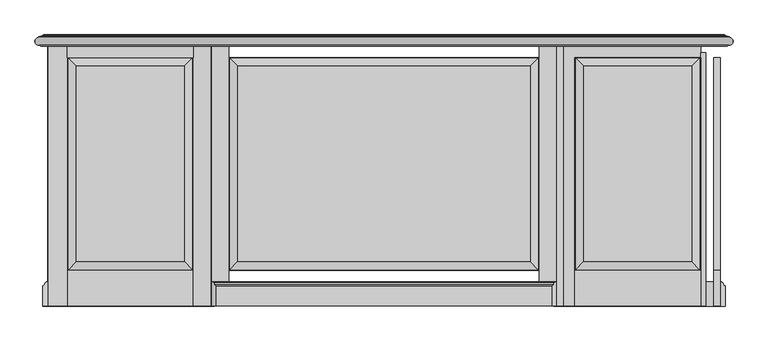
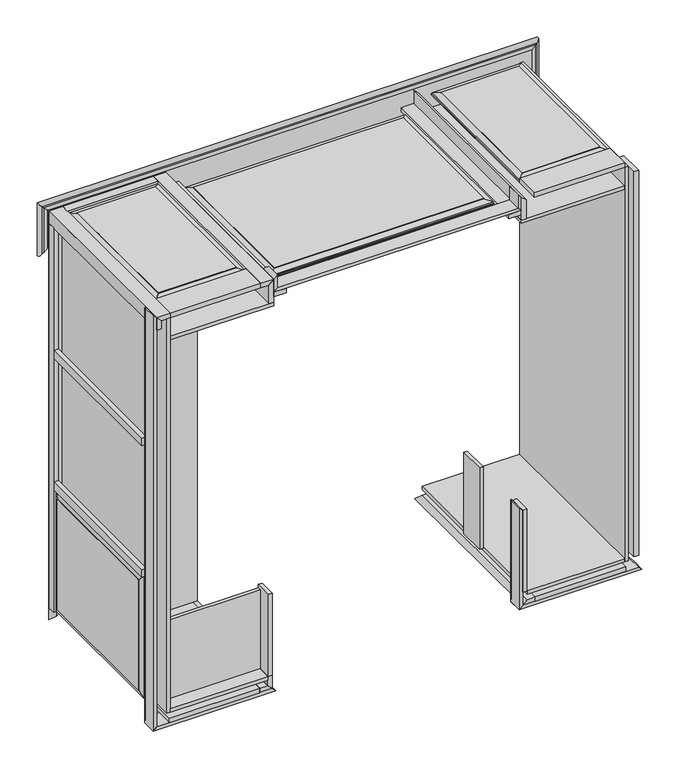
"""IFC4 building model written with IfcOpenShell, lengths in millimetres: proxy geometry, CAMBRIDGE^ADMIN 1_U-SHAPE-PARTS SOLID."""

from ifc_helpers import new_model, si_unit, frame, origin, origin_with_axes, place, context, project, spatial, polyline, ellipse_curve, outline, extrude, faceted_brep, source, transform, mapped, element, save
from ifc_brep_helpers import plane_surface, cylinder_surface, revolved_surface, advanced_brep


def generic_models_92315624(model_context):
    return source(origin(), model_context, "Body", "SolidModel", [
        extrude(outline(polyline([(-2006.6, -19.05), (-2006.6, 25.4), (-1981.2, 0.0), (-1981.2, -19.05), (-2006.6, -19.05)])), frame((0.0, 0.0, -6.35), z_axis=(0.0, 0.0, 1.0), x_axis=(1.0, 0.0, 0.0)), (0.0, 0.0, 1.0), 2228.85),
        extrude(outline(polyline([(19.05, -439.340625), (19.05, -588.16875), (0.0, -588.16875), (0.0, -439.340625), (19.05, -439.340625)])), frame((0.0, 0.0, 2.38125), z_axis=(0.0, 0.0, 1.0), x_axis=(1.0, 0.0, 0.0)), (0.0, 0.0, 1.0), 471.4875),
        faceted_brep([(-1930.4, 0.0, 2266.95), (-1930.4, 25.4, 2292.35), (-2006.6, 25.4, 2292.35), (-1981.2, 0.0, 2266.95), (-2006.6, 25.4, -76.2), (-1981.2, 0.0, -50.8), (-1930.4, 0.0, 0.0), (-1930.4, 25.4, 0.0)], [[[0, 1, 2, 3]], [[3, 2, 4, 5]], [[0, 3, 5, 6]], [[1, 0, 6, 7]], [[5, 4, 7, 6]], [[7, 4, 2, 1]]]),
        extrude(outline(polyline([(558.8, -857.25), (558.8, -996.95), (63.5, -996.95), (63.5, -857.25), (558.8, -857.25)])), frame((0.0, 0.0, 2266.95), z_axis=(0.0, 0.0, 1.0), x_axis=(1.0, 0.0, 0.0)), (0.0, 0.0, 1.0), 25.4),
        extrude(outline(polyline([(-1397.0, -996.95), (-1930.4, -996.95), (-1930.4, 0.0), (-1397.0, 0.0), (-1397.0, -996.95)])), frame((0.0, 0.0, -19.05), z_axis=(0.0, 0.0, 1.0), x_axis=(1.0, 0.0, 0.0)), (0.0, 0.0, 1.0), 19.05),
        faceted_brep([(-1397.0, 0.0, -50.8), (-1371.6, 25.4, -76.2), (-1371.6, -996.95, -76.2), (-1397.0, -996.95, -50.8), (-1371.6, -996.95, 0.0), (-1397.0, -996.95, 0.0), (-1397.0, 0.0, 0.0), (-1371.6, 25.4, 0.0)], [[[0, 1, 2, 3]], [[3, 2, 4, 5]], [[0, 3, 5, 6]], [[1, 0, 6, 7]], [[2, 1, 7, 4]], [[7, 6, 5, 4]]]),
        extrude(outline(polyline([(2159.0, -1390.65), (2159.0, -1365.25), (2292.35, -1365.25), (2266.95, -1390.65), (2159.0, -1390.65)])), frame((0.0, -996.95, 0.0), z_axis=(0.0, 1.0, 0.0), x_axis=(0.0, 0.0, 1.0)), (0.0, 0.0, 1.0), 1022.35),
        extrude(outline(polyline([(-1365.25, -996.95), (-1365.25, 25.4), (-1295.4, 25.4), (-1295.4, -996.95), (-1365.25, -996.95)])), frame((0.0, 0.0, 2190.75), z_axis=(0.0, 0.0, 1.0), x_axis=(1.0, 0.0, 0.0)), (0.0, 0.0, 1.0), 25.4),
        extrude(outline(polyline([(-1441.45, -857.25), (-1441.45, -996.95), (-1936.75, -996.95), (-1936.75, -857.25), (-1441.45, -857.25)])), frame((0.0, 0.0, -76.2), z_axis=(0.0, 0.0, 1.0), x_axis=(1.0, 0.0, 0.0)), (0.0, 0.0, 1.0), 25.4),
        extrude(outline(polyline([(-1930.4, -19.05), (-1930.4, 25.4), (-1435.1, 25.4), (-1435.1, -19.05), (-1930.4, -19.05)])), frame((0.0, 0.0, 2266.95), z_axis=(0.0, 0.0, 1.0), x_axis=(1.0, 0.0, 0.0)), (0.0, 0.0, 1.0), 25.4),
        extrude(outline(polyline([(558.8, -996.95), (25.4, -996.95), (25.4, 0.0), (558.8, 0.0), (558.8, -996.95)])), frame((0.0, 0.0, -19.05), z_axis=(0.0, 0.0, 1.0), x_axis=(1.0, 0.0, 0.0)), (0.0, 0.0, 1.0), 19.05),
        extrude(outline(polyline([(2159.0, -6.35), (2159.0, 19.05), (2266.95, 19.05), (2292.35, -6.35), (2159.0, -6.35)])), frame((0.0, -996.95, 0.0), z_axis=(0.0, 1.0, 0.0), x_axis=(0.0, 0.0, 1.0)), (0.0, 0.0, 1.0), 1022.35),
        extrude(outline(polyline([(-1930.4, 0.0), (-1930.4, -996.95), (-1949.45, -996.95), (-1949.45, 0.0), (-1930.4, 0.0)])), frame((0.0, 0.0, -19.05), z_axis=(0.0, 0.0, 1.0), x_axis=(1.0, 0.0, 0.0)), (0.0, 0.0, 1.0), 2286.0),
        extrude(outline(polyline([(2266.95, -1390.65), (2292.35, -1365.25), (2292.35, -1435.1), (2266.95, -1435.1), (2266.95, -1390.65)])), frame((0.0, -996.95, 0.0), z_axis=(0.0, 1.0, 0.0), x_axis=(0.0, 0.0, 1.0)), (0.0, 0.0, 1.0), 1022.35),
        extrude(outline(polyline([(-2006.6, -19.05), (-1981.2, -19.05), (-1981.2, -857.25), (-2006.6, -857.25), (-2006.6, -19.05)])), frame((0.0, 0.0, 1466.85), z_axis=(0.0, 0.0, 1.0), x_axis=(1.0, 0.0, 0.0)), (0.0, 0.0, 1.0), 44.45),
        extrude(outline(polyline([(-6.35, 25.4), (-6.35, -996.95), (-76.2, -996.95), (-76.2, 25.4), (-6.35, 25.4)])), frame((0.0, 0.0, 2190.75), z_axis=(0.0, 0.0, 1.0), x_axis=(1.0, 0.0, 0.0)), (0.0, 0.0, 1.0), 25.4),
        faceted_brep([(-111.125, -822.325, 2216.15), (-111.125, -822.325, 2212.975), (-111.125, -53.975, 2212.975), (-111.125, -53.975, 2216.15), (-79.375, -854.075, 2204.4676131), (-79.375, -22.225, 2204.4676131), (-79.375, -854.075, 2197.1), (-79.375, -22.225, 2197.1), (-1260.475, -822.325, 2216.15), (-1260.475, -822.325, 2212.975), (-1292.225, -854.075, 2204.4676131), (-1292.225, -854.075, 2197.1), (-76.2, -19.05, 2197.1), (-1295.4, -19.05, 2197.1), (-1295.4, -857.25, 2197.1), (-76.2, -857.25, 2197.1), (-1292.225, -22.225, 2197.1), (-1260.475, -53.975, 2216.15), (-1260.475, -53.975, 2212.975), (-1292.225, -22.225, 2204.4676131), (-76.2, -857.25, 2190.75), (-76.2, -19.05, 2190.75), (-1295.4, -857.25, 2190.75), (-1295.4, -19.05, 2190.75)], [[[0, 1, 2, 3]], [[1, 4, 5, 2]], [[4, 6, 7, 5]], [[8, 9, 1, 0]], [[9, 10, 4, 1]], [[10, 11, 6, 4]], [[12, 13, 14, 15], [11, 16, 7, 6]], [[17, 18, 9, 8]], [[18, 19, 10, 9]], [[19, 16, 11, 10]], [[3, 2, 18, 17]], [[2, 5, 19, 18]], [[5, 7, 16, 19]], [[12, 15, 20, 21]], [[15, 14, 22, 20]], [[14, 13, 23, 22]], [[13, 12, 21, 23]], [[0, 3, 17, 8]], [[20, 22, 23, 21]]]),
        advanced_brep(
        [(662.8382387, 25.4, 2320.1882387), (668.7910714, 28.5587803, 2326.1410714), (-2040.3910714, 28.5587803, 2326.1410714), (-2034.4382387, 25.4, 2320.1882387), (669.925, 60.2682311, 2327.275), (-2041.525, 60.2682311, 2327.275), (669.925, 61.8557311, 2327.275), (-2041.525, 61.8557311, 2327.275), (655.0531721, 67.2686338, 2312.4031721), (-2026.6531721, 67.2686338, 2312.4031721), (651.8528814, 69.85, 2309.2028814), (-2023.4528814, 69.85, 2309.2028814), (641.35, 69.85, 2298.7), (-2012.95, 69.85, 2298.7), (641.35, 25.4, 2298.7), (-2012.95, 25.4, 2298.7)],
        [
            (0, 1, ellipse_curve(frame((668.3375, 22.225, 2325.6875), z_axis=(0.7071067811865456, 0.0, -0.7071067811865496), x_axis=(-0.7071067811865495, 0.0, -0.7071067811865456)), 8.9802561, 6.35)),
            (1, 2),
            (2, 3, ellipse_curve(frame((-2039.9375, 22.225, 2325.6875), z_axis=(-0.7071067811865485, 0.0, -0.7071067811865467), x_axis=(-0.7071067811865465, 0.0, 0.7071067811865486)), 8.9802561, 6.35)),
            (3, 0),
            (1, 4, ellipse_curve(frame((669.925, 44.3932311, 2327.275), z_axis=(-0.7071067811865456, 0.0, 0.7071067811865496), x_axis=(-0.7071067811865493, 0.0, -0.7071067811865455)), 22.4506403, 15.875)),
            (4, 5),
            (5, 2, ellipse_curve(frame((-2041.525, 44.3932311, 2327.275), z_axis=(0.7071067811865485, 0.0, 0.7071067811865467), x_axis=(-0.7071067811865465, 0.0, 0.7071067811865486)), 22.4506403, 15.875)),
            (4, 6),
            (6, 7),
            (7, 5),
            (6, 8),
            (8, 9),
            (9, 7),
            (8, 10, ellipse_curve(frame((657.225, 73.2356819, 2314.575), z_axis=(0.7071067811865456, 0.0, -0.7071067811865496), x_axis=(-0.7071067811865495, 0.0, -0.7071067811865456)), 8.9802561, 6.35)),
            (10, 11),
            (11, 9, ellipse_curve(frame((-2028.825, 73.2356819, 2314.575), z_axis=(-0.7071067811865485, 0.0, -0.7071067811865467), x_axis=(-0.7071067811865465, 0.0, 0.7071067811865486)), 8.9802561, 6.35)),
            (10, 12),
            (12, 13),
            (13, 11),
            (0, 14),
            (14, 12),
            (13, 15),
            (15, 3),
            (14, 15),
        ],
        [
            revolved_surface(polyline([(-2046.287499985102, 22.225, 2319.3375), (674.6874999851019, 22.225, 2319.3375)]), (668.3375, 22.225, 2325.6875), (-1.0, 0.0, 0.0)),
            cylinder_surface(frame((669.925, 44.3932311, 2327.275), z_axis=(-1.0, 0.0, 0.0), x_axis=(0.0, 0.0, 1.0)), 15.875),
            plane_surface(frame((669.925, 61.8557311, 2327.275), z_axis=(0.0, 0.0, 1.0), x_axis=(0.0, -1.0, 0.0))),
            plane_surface(frame((655.0531721, 67.2686338, 2312.4031721), z_axis=(0.0, 0.9396926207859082, 0.34202014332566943), x_axis=(0.6847910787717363, -0.24924356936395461, 0.6847910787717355))),
            revolved_surface(polyline([(-2035.1749999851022, 73.2356819, 2308.225), (663.574999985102, 73.2356819, 2308.225)]), (657.225, 73.2356819, 2314.575), (-1.0, 0.0, 0.0)),
            plane_surface(frame((-685.8, 69.85, 2320.925), z_axis=(0.0, 1.0, 0.0), x_axis=(0.0, 0.0, 1.0))),
            plane_surface(frame((685.8, 25.4, 2343.15), z_axis=(0.7071067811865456, 0.0, -0.7071067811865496), x_axis=(-0.7071067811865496, 0.0, -0.7071067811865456))),
            plane_surface(frame((-2012.95, 25.4, 2298.7), z_axis=(-0.7071067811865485, 0.0, -0.7071067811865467), x_axis=(-0.7071067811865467, 0.0, 0.7071067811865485))),
            plane_surface(frame((641.35, 25.4, 2298.7), z_axis=(0.0, 0.0, -1.0), x_axis=(-1.0, 0.0, 0.0))),
            plane_surface(frame((-685.8, 25.4, 2320.925), z_axis=(0.0, -1.0, 0.0), x_axis=(0.0, 0.0, 1.0))),
        ],
        [
            (0, [[1, 2, 3, 4]]),
            (1, [[5, 6, 7, -2]]),
            (2, [[8, 9, 10, -6]]),
            (3, [[11, 12, 13, -9]]),
            (4, [[14, 15, 16, -12]]),
            (5, [[-15, 17, 18, 19]]),
            (6, [[-14, -11, -8, -5, -1, 20, 21, -17]]),
            (7, [[-16, -19, 22, 23, -3, -7, -10, -13]]),
            (8, [[24, -22, -18, -21]]),
            (9, [[-4, -23, -24, -20]]),
        ],
    ),
        extrude(outline(polyline([(-19.05, -50.8), (0.0, -50.8), (25.4, -76.2), (-19.05, -76.2), (-19.05, -50.8)])), frame((-1936.75, 0.0, 0.0), z_axis=(1.0, 0.0, 0.0), x_axis=(0.0, 1.0, 0.0)), (0.0, 0.0, 1.0), 495.3),
        advanced_brep(
        [(-6.35, -901.7, -82.55), (-6.35, -904.875, -82.55), (-6.35, -904.875, 482.6), (-6.35, -901.7, 482.6), (-12.7, -911.225, -88.9), (-12.7, -911.225, 488.95), (-19.05, -917.575, -95.25), (-19.05, -917.575, 495.3), (-19.05, -996.95, -95.25), (-19.05, -996.95, 495.3), (0.0, -901.7, -76.2), (0.0, -996.95, -76.2), (0.0, -996.95, 476.25), (0.0, -901.7, 476.25)],
        [
            (0, 1),
            (1, 2),
            (2, 3),
            (3, 0),
            (1, 4, ellipse_curve(frame((-6.35, -911.225, -82.55), z_axis=(-0.7071067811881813, 0.0, 0.7071067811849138), x_axis=(0.7071067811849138, 0.0, 0.7071067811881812)), 8.9802561, 6.35)),
            (4, 5),
            (5, 2, ellipse_curve(frame((-6.35, -911.225, 482.6), z_axis=(-0.7071067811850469, 0.0, -0.7071067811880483), x_axis=(-0.7071067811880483, 0.0, 0.7071067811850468)), 8.9802561, 6.35)),
            (4, 6, ellipse_curve(frame((-19.05, -911.225, -95.25), z_axis=(0.7071067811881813, 0.0, -0.7071067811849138), x_axis=(0.7071067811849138, 0.0, 0.7071067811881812)), 8.9802561, 6.35)),
            (6, 7),
            (7, 5, ellipse_curve(frame((-19.05, -911.225, 495.3), z_axis=(0.7071067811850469, 0.0, 0.7071067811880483), x_axis=(-0.7071067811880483, 0.0, 0.7071067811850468)), 8.9802561, 6.35)),
            (6, 8),
            (8, 9),
            (9, 7),
            (0, 10),
            (10, 11),
            (11, 8),
            (12, 11),
            (10, 13),
            (13, 12),
            (9, 12),
            (13, 3),
        ],
        [
            plane_surface(frame((-6.35, -904.875, -82.55), z_axis=(-1.0, 0.0, 0.0), x_axis=(0.0, 1.0, 0.0))),
            cylinder_surface(frame((-6.35, -911.225, -82.55), z_axis=(0.0, 0.0, 1.0), x_axis=(1.0, 0.0, 0.0)), 6.35),
            revolved_surface(polyline([(-12.700000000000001, -911.225, 501.64999998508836), (-12.700000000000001, -911.225, -101.59999998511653)]), (-19.05, -911.225, -95.25), (0.0, 0.0, 1.0)),
            plane_surface(frame((-19.05, -996.95, -95.25), z_axis=(-1.0, 0.0, 0.0), x_axis=(0.0, 0.0, 1.0))),
            plane_surface(frame((0.0, -996.95, -76.2), z_axis=(0.7071067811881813, 0.0, -0.7071067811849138), x_axis=(-0.7071067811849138, 0.0, -0.7071067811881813))),
            plane_surface(frame((0.0, -996.95, 476.25), z_axis=(1.0, 0.0, 0.0), x_axis=(0.0, 0.0, -1.0))),
            plane_surface(frame((-19.05, -996.95, 495.3), z_axis=(0.7071067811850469, 0.0, 0.7071067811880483), x_axis=(0.7071067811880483, 0.0, -0.7071067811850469))),
            plane_surface(frame((-9.525, -996.95, 200.025), z_axis=(0.0, -1.0, 0.0), x_axis=(0.0, 0.0, -1.0))),
            plane_surface(frame((-9.525, -901.7, 200.025), z_axis=(0.0, 1.0, 0.0), x_axis=(0.0, 0.0, 1.0))),
        ],
        [
            (0, [[1, 2, 3, 4]]),
            (1, [[5, 6, 7, -2]]),
            (2, [[8, 9, 10, -6]]),
            (3, [[-9, 11, 12, 13]]),
            (4, [[-8, -5, -1, 14, 15, 16, -11]]),
            (5, [[17, -15, 18, 19]]),
            (6, [[-10, -13, 20, -19, 21, -3, -7]]),
            (7, [[-12, -16, -17, -20]]),
            (8, [[-4, -21, -18, -14]]),
        ],
    ),
        extrude(outline(polyline([(-2006.6, -19.05), (-1981.2, -19.05), (-1981.2, -857.25), (-2006.6, -857.25), (-2006.6, -19.05)])), frame((0.0, 0.0, 704.85), z_axis=(0.0, 0.0, 1.0), x_axis=(1.0, 0.0, 0.0)), (0.0, 0.0, 1.0), 44.45),
        advanced_brep(
        [(-1365.25, -901.7, -82.55), (-1365.25, -904.875, -82.55), (-2012.95, -904.875, -82.55), (-2012.95, -901.7, -82.55), (-1358.9, -911.225, -88.9), (-2019.3, -911.225, -88.9), (-1352.55, -917.575, -95.25), (-2025.65, -917.575, -95.25), (-1352.55, -996.95, -95.25), (-2025.65, -996.95, -95.25), (-1371.6, -901.7, -76.2), (-1371.6, -996.95, -76.2), (-2006.6, -996.95, -76.2), (-2006.6, -901.7, -76.2)],
        [
            (0, 1),
            (1, 2),
            (2, 3),
            (3, 0),
            (1, 4, ellipse_curve(frame((-1365.25, -911.225, -82.55), z_axis=(-0.7071067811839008, 0.0, -0.7071067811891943), x_axis=(-0.7071067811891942, 0.0, 0.7071067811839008)), 8.9802561, 6.35)),
            (4, 5),
            (5, 2, ellipse_curve(frame((-2012.95, -911.225, -82.55), z_axis=(0.7071067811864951, 0.0, -0.7071067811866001), x_axis=(-0.7071067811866, 0.0, -0.7071067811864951)), 8.9802561, 6.35)),
            (4, 6, ellipse_curve(frame((-1352.55, -911.225, -95.25), z_axis=(0.7071067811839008, 0.0, 0.7071067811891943), x_axis=(-0.7071067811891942, 0.0, 0.7071067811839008)), 8.9802561, 6.35)),
            (6, 7),
            (7, 5, ellipse_curve(frame((-2025.65, -911.225, -95.25), z_axis=(-0.7071067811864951, 0.0, 0.7071067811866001), x_axis=(-0.7071067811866, 0.0, -0.7071067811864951)), 8.9802561, 6.35)),
            (6, 8),
            (8, 9),
            (9, 7),
            (0, 10),
            (10, 11),
            (11, 8),
            (9, 12),
            (12, 13),
            (13, 3),
            (12, 11),
            (10, 13),
        ],
        [
            plane_surface(frame((-1365.25, -904.875, -82.55), z_axis=(0.0, 0.0, -1.0), x_axis=(0.0, 1.0, 0.0))),
            cylinder_surface(frame((-1365.25, -911.225, -82.55), z_axis=(-1.0, 0.0, 0.0), x_axis=(0.0, 0.0, 1.0)), 6.35),
            revolved_surface(polyline([(-2031.9999999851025, -911.225, -88.9), (-1346.2000000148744, -911.225, -88.9)]), (-1352.55, -911.225, -95.25), (-1.0, 0.0, 0.0)),
            plane_surface(frame((-1352.55, -996.95, -95.25), z_axis=(0.0, 0.0, -1.0), x_axis=(-1.0, 0.0, 0.0))),
            plane_surface(frame((-1371.6, -996.95, -76.2), z_axis=(0.7071067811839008, 0.0, 0.7071067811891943), x_axis=(0.7071067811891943, 0.0, -0.7071067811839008))),
            plane_surface(frame((-2025.65, -996.95, -95.25), z_axis=(-0.7071067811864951, 0.0, 0.7071067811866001), x_axis=(0.7071067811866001, 0.0, 0.7071067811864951))),
            plane_surface(frame((-2006.6, -996.95, -76.2), z_axis=(0.0, 0.0, 1.0), x_axis=(1.0, 0.0, 0.0))),
            plane_surface(frame((-1689.1, -996.95, -85.725), z_axis=(0.0, -1.0, 0.0), x_axis=(0.0, 0.0, -1.0))),
            plane_surface(frame((-1689.1, -901.7, -85.725), z_axis=(0.0, 1.0, 0.0), x_axis=(0.0, 0.0, 1.0))),
        ],
        [
            (0, [[1, 2, 3, 4]]),
            (1, [[5, 6, 7, -2]]),
            (2, [[8, 9, 10, -6]]),
            (3, [[-9, 11, 12, 13]]),
            (4, [[-8, -5, -1, 14, 15, 16, -11]]),
            (5, [[-10, -13, 17, 18, 19, -3, -7]]),
            (6, [[20, -15, 21, -18]]),
            (7, [[-20, -17, -12, -16]]),
            (8, [[-4, -19, -21, -14]]),
        ],
    ),
        extrude(outline(polyline([(558.8, 25.4), (558.8, -996.95), (-6.35, -996.95), (-6.35, 25.4), (558.8, 25.4)])), frame((0.0, 0.0, 2139.95), z_axis=(0.0, 0.0, 1.0), x_axis=(1.0, 0.0, 0.0)), (0.0, 0.0, 1.0), 19.05),
        extrude(outline(polyline([(69.85, -996.95), (69.85, -857.25), (565.15, -857.25), (565.15, -996.95), (69.85, -996.95)])), frame((0.0, 0.0, -76.2), z_axis=(0.0, 0.0, 1.0), x_axis=(1.0, 0.0, 0.0)), (0.0, 0.0, 1.0), 25.4),
        extrude(outline(polyline([(609.6, -19.05), (635.0, -19.05), (635.0, -857.25), (609.6, -857.25), (609.6, -19.05)])), frame((0.0, 0.0, 704.85), z_axis=(0.0, 0.0, 1.0), x_axis=(1.0, 0.0, 0.0)), (0.0, 0.0, 1.0), 44.45),
        extrude(outline(polyline([(-1393.825, -901.7), (-1393.825, -920.75), (-1930.4, -920.75), (-1930.4, -901.7), (-1393.825, -901.7)])), origin_with_axes(), (0.0, 0.0, 1.0), 457.2),
        faceted_brep([(-1397.0, 0.0, -50.8), (-1441.45, 0.0, -50.8), (-1441.45, -996.95, -50.8), (-1397.0, -996.95, -50.8), (-1371.6, 25.4, -76.2), (-1371.6, -996.95, -76.2), (-1441.45, 25.4, -76.2), (-1441.45, -996.95, -76.2)], [[[0, 1, 2, 3]], [[4, 0, 3, 5]], [[6, 4, 5, 7]], [[1, 6, 7, 2]], [[3, 2, 7, 5]], [[0, 4, 6, 1]]]),
        advanced_brep(
        [(-2012.95, -901.7, -82.55), (-2012.95, -904.875, -82.55), (-2012.95, -904.875, 2298.7), (-2012.95, -901.7, 2298.7), (-2019.3, -911.225, -88.9), (-2019.3, -911.225, 2305.05), (-2025.65, -917.575, -95.25), (-2025.65, -917.575, 2311.4), (-2025.65, -996.95, -95.25), (-2025.65, -996.95, 2311.4), (-2006.6, -901.7, -76.2), (-2006.6, -996.95, -76.2), (-2006.6, -996.95, 2292.35), (-2006.6, -901.7, 2292.35)],
        [
            (0, 1),
            (1, 2),
            (2, 3),
            (3, 0),
            (1, 4, ellipse_curve(frame((-2012.95, -911.225, -82.55), z_axis=(-0.7071067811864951, 0.0, 0.7071067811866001), x_axis=(0.7071067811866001, 0.0, 0.707106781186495)), 8.9802561, 6.35)),
            (4, 5),
            (5, 2, ellipse_curve(frame((-2012.95, -911.225, 2298.7), z_axis=(-0.7071067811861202, 0.0, -0.7071067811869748), x_axis=(-0.7071067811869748, 0.0, 0.7071067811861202)), 8.9802561, 6.35)),
            (4, 6, ellipse_curve(frame((-2025.65, -911.225, -95.25), z_axis=(0.7071067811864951, 0.0, -0.7071067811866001), x_axis=(0.7071067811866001, 0.0, 0.707106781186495)), 8.9802561, 6.35)),
            (6, 7),
            (7, 5, ellipse_curve(frame((-2025.65, -911.225, 2311.4), z_axis=(0.7071067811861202, 0.0, 0.7071067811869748), x_axis=(-0.7071067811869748, 0.0, 0.7071067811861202)), 8.9802561, 6.35)),
            (6, 8),
            (8, 9),
            (9, 7),
            (0, 10),
            (10, 11),
            (11, 8),
            (9, 12),
            (12, 13),
            (13, 3),
            (12, 11),
            (10, 13),
        ],
        [
            plane_surface(frame((-2012.95, -904.875, -82.55), z_axis=(-1.0, 0.0, 0.0), x_axis=(0.0, 1.0, 0.0))),
            cylinder_surface(frame((-2012.95, -911.225, -82.55), z_axis=(0.0, 0.0, 1.0), x_axis=(1.0, 0.0, 0.0)), 6.35),
            revolved_surface(polyline([(-2019.3000000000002, -911.225, 2317.749999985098), (-2019.3000000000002, -911.225, -101.59999998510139)]), (-2025.65, -911.225, -95.25), (0.0, 0.0, 1.0)),
            plane_surface(frame((-2025.65, -996.95, -95.25), z_axis=(-1.0, 0.0, 0.0), x_axis=(0.0, 0.0, 1.0))),
            plane_surface(frame((-2006.6, -996.95, -76.2), z_axis=(0.7071067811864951, 0.0, -0.7071067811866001), x_axis=(-0.7071067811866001, 0.0, -0.7071067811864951))),
            plane_surface(frame((-2025.65, -996.95, 2311.4), z_axis=(0.7071067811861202, 0.0, 0.7071067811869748), x_axis=(0.7071067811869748, 0.0, -0.7071067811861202))),
            plane_surface(frame((-2006.6, -996.95, 2292.35), z_axis=(1.0, 0.0, 0.0), x_axis=(0.0, 0.0, -1.0))),
            plane_surface(frame((-2016.125, -996.95, 1108.075), z_axis=(0.0, -1.0, 0.0), x_axis=(0.0, 0.0, -1.0))),
            plane_surface(frame((-2016.125, -901.7, 1108.075), z_axis=(0.0, 1.0, 0.0), x_axis=(0.0, 0.0, 1.0))),
        ],
        [
            (0, [[1, 2, 3, 4]]),
            (1, [[5, 6, 7, -2]]),
            (2, [[8, 9, 10, -6]]),
            (3, [[-9, 11, 12, 13]]),
            (4, [[-8, -5, -1, 14, 15, 16, -11]]),
            (5, [[-10, -13, 17, 18, 19, -3, -7]]),
            (6, [[20, -15, 21, -18]]),
            (7, [[-20, -17, -12, -16]]),
            (8, [[-4, -19, -21, -14]]),
        ],
    ),
        advanced_brep(
        [(-12.7, -901.7, 2222.5), (-12.7, -904.875, 2222.5), (-12.7, -904.875, 2298.7), (-12.7, -901.7, 2298.7), (-19.05, -911.225, 2228.85), (-19.05, -911.225, 2305.05), (-25.4, -917.575, 2235.2), (-25.4, -917.575, 2311.4), (-25.4, -996.95, 2235.2), (-25.4, -996.95, 2311.4), (-6.35, -901.7, 2216.15), (-6.35, -996.95, 2216.15), (-6.35, -996.95, 2292.35), (-6.35, -901.7, 2292.35)],
        [
            (0, 1),
            (1, 2),
            (2, 3),
            (3, 0),
            (1, 4, ellipse_curve(frame((-12.7, -911.225, 2222.5), z_axis=(0.7071067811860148, 0.0, 0.7071067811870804), x_axis=(-0.7071067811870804, 0.0, 0.7071067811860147)), 8.9802561, 6.35)),
            (4, 5),
            (5, 2, ellipse_curve(frame((-12.7, -911.225, 2298.7), z_axis=(-0.7071067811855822, 0.0, -0.7071067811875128), x_axis=(-0.7071067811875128, 0.0, 0.7071067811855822)), 8.9802561, 6.35)),
            (4, 6, ellipse_curve(frame((-25.4, -911.225, 2235.2), z_axis=(-0.7071067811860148, 0.0, -0.7071067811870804), x_axis=(-0.7071067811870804, 0.0, 0.7071067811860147)), 8.9802561, 6.35)),
            (6, 7),
            (7, 5, ellipse_curve(frame((-25.4, -911.225, 2311.4), z_axis=(0.7071067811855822, 0.0, 0.7071067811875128), x_axis=(-0.7071067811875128, 0.0, 0.7071067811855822)), 8.9802561, 6.35)),
            (6, 8),
            (8, 9),
            (9, 7),
            (0, 10),
            (10, 11),
            (11, 8),
            (12, 11),
            (10, 13),
            (13, 12),
            (9, 12),
            (13, 3),
        ],
        [
            plane_surface(frame((-12.7, -904.875, 2222.5), z_axis=(-1.0, 0.0, 0.0), x_axis=(0.0, 1.0, 0.0))),
            cylinder_surface(frame((-12.7, -911.225, 2222.5), z_axis=(0.0, 0.0, 1.0), x_axis=(1.0, 0.0, 0.0)), 6.35),
            revolved_surface(polyline([(-19.049999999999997, -911.225, 2317.7499999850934), (-19.049999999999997, -911.225, 2228.85)]), (-25.4, -911.225, 2235.2), (0.0, 0.0, 1.0)),
            plane_surface(frame((-25.4, -996.95, 2235.2), z_axis=(-1.0, 0.0, 0.0), x_axis=(0.0, 0.0, 1.0))),
            plane_surface(frame((-6.35, -996.95, 2216.15), z_axis=(-0.7071067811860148, 0.0, -0.7071067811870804), x_axis=(-0.7071067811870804, 0.0, 0.7071067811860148))),
            plane_surface(frame((-6.35, -996.95, 2292.35), z_axis=(1.0, 0.0, 0.0), x_axis=(0.0, 0.0, -1.0))),
            plane_surface(frame((-25.4, -996.95, 2311.4), z_axis=(0.7071067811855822, 0.0, 0.7071067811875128), x_axis=(0.7071067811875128, 0.0, -0.7071067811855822))),
            plane_surface(frame((-15.875, -996.95, 2263.775), z_axis=(0.0, -1.0, 0.0), x_axis=(0.0, 0.0, -1.0))),
            plane_surface(frame((-15.875, -901.7, 2263.775), z_axis=(0.0, 1.0, 0.0), x_axis=(0.0, 0.0, 1.0))),
        ],
        [
            (0, [[1, 2, 3, 4]]),
            (1, [[5, 6, 7, -2]]),
            (2, [[8, 9, 10, -6]]),
            (3, [[-9, 11, 12, 13]]),
            (4, [[-8, -5, -1, 14, 15, 16, -11]]),
            (5, [[17, -15, 18, 19]]),
            (6, [[-10, -13, 20, -19, 21, -3, -7]]),
            (7, [[-12, -16, -17, -20]]),
            (8, [[-4, -21, -18, -14]]),
        ],
    ),
        faceted_brep([(-2003.425, -822.325, 28.575), (-2006.6, -822.325, 28.575), (-2006.6, -53.975, 28.575), (-2003.425, -53.975, 28.575), (-1994.9176131, -854.075, -3.175), (-1994.9176131, -22.225, -3.175), (-1987.55, -854.075, -3.175), (-1987.55, -22.225, -3.175), (-2003.425, -822.325, 669.925), (-2006.6, -822.325, 669.925), (-1994.9176131, -854.075, 701.675), (-1987.55, -854.075, 701.675), (-1987.55, -19.05, 704.85), (-1987.55, -19.05, -6.35), (-1987.55, -857.25, -6.35), (-1987.55, -857.25, 704.85), (-1987.55, -22.225, 701.675), (-2003.425, -53.975, 669.925), (-2006.6, -53.975, 669.925), (-1994.9176131, -22.225, 701.675), (-1981.2, -19.05, -6.35), (-1981.2, -857.25, -6.35), (-1981.2, -857.25, 704.85), (-1981.2, -19.05, 704.85)], [[[0, 1, 2, 3]], [[4, 0, 3, 5]], [[6, 4, 5, 7]], [[8, 9, 1, 0]], [[10, 8, 0, 4]], [[11, 10, 4, 6]], [[12, 13, 14, 15], [16, 11, 6, 7]], [[17, 18, 9, 8]], [[19, 17, 8, 10]], [[16, 19, 10, 11]], [[3, 2, 18, 17]], [[5, 3, 17, 19]], [[7, 5, 19, 16]], [[14, 13, 20, 21]], [[15, 14, 21, 22]], [[13, 12, 23, 20]], [[12, 15, 22, 23]], [[2, 1, 9, 18]], [[22, 21, 20, 23]]]),
        extrude(outline(polyline([(558.8, -996.95), (558.8, 0.0), (577.85, 0.0), (577.85, -996.95), (558.8, -996.95)])), frame((0.0, 0.0, -19.05), z_axis=(0.0, 0.0, 1.0), x_axis=(1.0, 0.0, 0.0)), (0.0, 0.0, 1.0), 2286.0),
        extrude(outline(polyline([(-1365.25, -996.95), (-1930.4, -996.95), (-1930.4, 25.4), (-1365.25, 25.4), (-1365.25, -996.95)])), frame((0.0, 0.0, 2139.95), z_axis=(0.0, 0.0, 1.0), x_axis=(1.0, 0.0, 0.0)), (0.0, 0.0, 1.0), 19.05),
        faceted_brep([(104.775, -822.325, -76.2), (104.775, -822.325, -73.025), (104.775, -53.975, -73.025), (104.775, -53.975, -76.2), (73.025, -854.075, -64.5176131), (73.025, -22.225, -64.5176131), (73.025, -854.075, -57.15), (73.025, -22.225, -57.15), (530.225, -822.325, -76.2), (530.225, -822.325, -73.025), (561.975, -854.075, -64.5176131), (561.975, -854.075, -57.15), (69.85, -19.05, -57.15), (565.15, -19.05, -57.15), (565.15, -857.25, -57.15), (69.85, -857.25, -57.15), (561.975, -22.225, -57.15), (530.225, -53.975, -76.2), (530.225, -53.975, -73.025), (561.975, -22.225, -64.5176131), (69.85, -857.25, -50.8), (69.85, -19.05, -50.8), (565.15, -857.25, -50.8), (565.15, -19.05, -50.8)], [[[0, 1, 2, 3]], [[1, 4, 5, 2]], [[4, 6, 7, 5]], [[8, 9, 1, 0]], [[9, 10, 4, 1]], [[10, 11, 6, 4]], [[12, 13, 14, 15], [11, 16, 7, 6]], [[17, 18, 9, 8]], [[18, 19, 10, 9]], [[19, 16, 11, 10]], [[3, 2, 18, 17]], [[2, 5, 19, 18]], [[5, 7, 16, 19]], [[12, 15, 20, 21]], [[15, 14, 22, 20]], [[13, 12, 21, 23]], [[14, 13, 23, 22]], [[0, 3, 17, 8]], [[20, 22, 23, 21]]]),
        advanced_brep(
        [(-2034.4382387, 25.4, 2320.1882387), (-2040.3910714, 28.5587803, 2326.1410714), (-2040.3910714, 28.5587803, 2055.3589286), (-2034.4382387, 25.4, 2061.3117613), (-2041.525, 60.2682311, 2327.275), (-2041.525, 60.2682311, 2054.225), (-2041.525, 61.8557311, 2327.275), (-2041.525, 61.8557311, 2054.225), (-2026.6531721, 67.2686338, 2312.4031721), (-2026.6531721, 67.2686338, 2069.0968279), (-2023.4528814, 69.85, 2309.2028814), (-2023.4528814, 69.85, 2072.2971186), (-2012.95, 69.85, 2298.7), (-2012.95, 69.85, 2082.8), (-2012.95, 25.4, 2082.8), (-2012.95, 25.4, 2298.7)],
        [
            (0, 1, ellipse_curve(frame((-2039.9375, 22.225, 2325.6875), z_axis=(0.7071067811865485, 0.0, 0.7071067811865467), x_axis=(0.7071067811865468, 0.0, -0.7071067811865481)), 8.9802561, 6.35)),
            (1, 2),
            (2, 3, ellipse_curve(frame((-2039.9375, 22.225, 2055.8125), z_axis=(0.7071067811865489, 0.0, -0.7071067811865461), x_axis=(-0.707106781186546, 0.0, -0.707106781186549)), 8.9802561, 6.35)),
            (3, 0),
            (1, 4, ellipse_curve(frame((-2041.525, 44.3932311, 2327.275), z_axis=(-0.7071067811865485, 0.0, -0.7071067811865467), x_axis=(0.7071067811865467, 0.0, -0.7071067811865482)), 22.4506403, 15.875)),
            (4, 5),
            (5, 2, ellipse_curve(frame((-2041.525, 44.3932311, 2054.225), z_axis=(-0.7071067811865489, 0.0, 0.7071067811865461), x_axis=(-0.7071067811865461, 0.0, -0.7071067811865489)), 22.4506403, 15.875)),
            (4, 6),
            (6, 7),
            (7, 5),
            (6, 8),
            (8, 9),
            (9, 7),
            (8, 10, ellipse_curve(frame((-2028.825, 73.2356819, 2314.575), z_axis=(0.7071067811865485, 0.0, 0.7071067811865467), x_axis=(0.7071067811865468, 0.0, -0.7071067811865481)), 8.9802561, 6.35)),
            (10, 11),
            (11, 9, ellipse_curve(frame((-2028.825, 73.2356819, 2066.925), z_axis=(0.7071067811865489, 0.0, -0.7071067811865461), x_axis=(-0.707106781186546, 0.0, -0.707106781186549)), 8.9802561, 6.35)),
            (10, 12),
            (12, 13),
            (13, 11),
            (3, 14),
            (14, 15),
            (15, 0),
            (15, 12),
            (13, 14),
        ],
        [
            revolved_surface(polyline([(-2033.5875, 22.225, 2049.462500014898), (-2033.5875, 22.225, 2332.037499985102)]), (-2039.9375, 22.225, 2325.6875), (0.0, 0.0, -1.0)),
            cylinder_surface(frame((-2041.525, 44.3932311, 2327.275), z_axis=(0.0, 0.0, -1.0), x_axis=(-1.0, 0.0, 0.0)), 15.875),
            plane_surface(frame((-2041.525, 61.8557311, 2327.275), z_axis=(-1.0, 0.0, 0.0), x_axis=(0.0, -1.0, 0.0))),
            plane_surface(frame((-2026.6531721, 67.2686338, 2312.4031721), z_axis=(-0.3420201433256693, 0.9396926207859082, 0.0), x_axis=(-0.6847910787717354, -0.24924356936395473, 0.6847910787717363))),
            revolved_surface(polyline([(-2022.4750000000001, 73.2356819, 2060.5750000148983), (-2022.4750000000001, 73.2356819, 2320.9249999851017)]), (-2028.825, 73.2356819, 2314.575), (0.0, 0.0, -1.0)),
            plane_surface(frame((-2035.175, 69.85, 2190.75), z_axis=(0.0, 1.0, 0.0), x_axis=(0.0, 0.0, 1.0))),
            plane_surface(frame((-2035.175, 25.4, 2190.75), z_axis=(0.0, -1.0, 0.0), x_axis=(0.0, 0.0, 1.0))),
            plane_surface(frame((-2057.4, 25.4, 2343.15), z_axis=(0.7071067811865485, 0.0, 0.7071067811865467), x_axis=(0.7071067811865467, 0.0, -0.7071067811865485))),
            plane_surface(frame((-2012.95, 25.4, 2082.8), z_axis=(0.7071067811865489, 0.0, -0.7071067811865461), x_axis=(-0.7071067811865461, 0.0, -0.7071067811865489))),
            plane_surface(frame((-2012.95, 25.4, 2298.7), z_axis=(1.0, 0.0, 0.0), x_axis=(0.0, 0.0, -1.0))),
        ],
        [
            (0, [[1, 2, 3, 4]]),
            (1, [[5, 6, 7, -2]]),
            (2, [[8, 9, 10, -6]]),
            (3, [[11, 12, 13, -9]]),
            (4, [[14, 15, 16, -12]]),
            (5, [[-15, 17, 18, 19]]),
            (6, [[-4, 20, 21, 22]]),
            (7, [[-14, -11, -8, -5, -1, -22, 23, -17]]),
            (8, [[-16, -19, 24, -20, -3, -7, -10, -13]]),
            (9, [[-21, -24, -18, -23]]),
        ],
    ),
        advanced_brep(
        [(641.35, -901.7, -82.55), (641.35, -904.875, -82.55), (-6.35, -904.875, -82.55), (-6.35, -901.7, -82.55), (647.7, -911.225, -88.9), (-12.7, -911.225, -88.9), (654.05, -917.575, -95.25), (-19.05, -917.575, -95.25), (654.05, -996.95, -95.25), (-19.05, -996.95, -95.25), (635.0, -901.7, -76.2), (635.0, -996.95, -76.2), (0.0, -996.95, -76.2), (0.0, -901.7, -76.2)],
        [
            (0, 1),
            (1, 2),
            (2, 3),
            (3, 0),
            (1, 4, ellipse_curve(frame((641.35, -911.225, -82.55), z_axis=(-0.7071067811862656, 0.0, -0.7071067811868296), x_axis=(-0.7071067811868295, 0.0, 0.7071067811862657)), 8.9802561, 6.35)),
            (4, 5),
            (5, 2, ellipse_curve(frame((-6.35, -911.225, -82.55), z_axis=(0.7071067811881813, 0.0, -0.7071067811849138), x_axis=(-0.7071067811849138, 0.0, -0.7071067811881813)), 8.9802561, 6.35)),
            (4, 6, ellipse_curve(frame((654.05, -911.225, -95.25), z_axis=(0.7071067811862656, 0.0, 0.7071067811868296), x_axis=(-0.7071067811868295, 0.0, 0.7071067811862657)), 8.9802561, 6.35)),
            (6, 7),
            (7, 5, ellipse_curve(frame((-19.05, -911.225, -95.25), z_axis=(-0.7071067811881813, 0.0, 0.7071067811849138), x_axis=(-0.7071067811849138, 0.0, -0.7071067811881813)), 8.9802561, 6.35)),
            (6, 8),
            (8, 9),
            (9, 7),
            (0, 10),
            (10, 11),
            (11, 8),
            (9, 12),
            (12, 13),
            (13, 3),
            (12, 11),
            (10, 13),
        ],
        [
            plane_surface(frame((641.35, -904.875, -82.55), z_axis=(0.0, 0.0, -1.0), x_axis=(0.0, 1.0, 0.0))),
            cylinder_surface(frame((641.35, -911.225, -82.55), z_axis=(-1.0, 0.0, 0.0), x_axis=(0.0, 0.0, 1.0)), 6.35),
            revolved_surface(polyline([(-25.399999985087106, -911.225, -88.9), (660.3999999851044, -911.225, -88.9)]), (654.05, -911.225, -95.25), (-1.0, 0.0, 0.0)),
            plane_surface(frame((654.05, -996.95, -95.25), z_axis=(0.0, 0.0, -1.0), x_axis=(-1.0, 0.0, 0.0))),
            plane_surface(frame((635.0, -996.95, -76.2), z_axis=(0.7071067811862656, 0.0, 0.7071067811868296), x_axis=(0.7071067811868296, 0.0, -0.7071067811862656))),
            plane_surface(frame((-19.05, -996.95, -95.25), z_axis=(-0.7071067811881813, 0.0, 0.7071067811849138), x_axis=(0.7071067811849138, 0.0, 0.7071067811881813))),
            plane_surface(frame((0.0, -996.95, -76.2), z_axis=(0.0, 0.0, 1.0), x_axis=(1.0, 0.0, 0.0))),
            plane_surface(frame((317.5, -996.95, -85.725), z_axis=(0.0, -1.0, 0.0), x_axis=(0.0, 0.0, -1.0))),
            plane_surface(frame((317.5, -901.7, -85.725), z_axis=(0.0, 1.0, 0.0), x_axis=(0.0, 0.0, 1.0))),
        ],
        [
            (0, [[1, 2, 3, 4]]),
            (1, [[5, 6, 7, -2]]),
            (2, [[8, 9, 10, -6]]),
            (3, [[-9, 11, 12, 13]]),
            (4, [[-8, -5, -1, 14, 15, 16, -11]]),
            (5, [[-10, -13, 17, 18, 19, -3, -7]]),
            (6, [[20, -15, 21, -18]]),
            (7, [[-20, -17, -12, -16]]),
            (8, [[-4, -19, -21, -14]]),
        ],
    ),
        faceted_brep([(-2006.6, -996.95, 2292.35), (-1981.2, -996.95, 2266.95), (-1981.2, 0.0, 2266.95), (-2006.6, 25.4, 2292.35), (-1981.2, -996.95, 2222.5), (-1981.2, 0.0, 2222.5), (-2006.6, 25.4, 2222.5), (-2006.6, -996.95, 2222.5)], [[[0, 1, 2, 3]], [[2, 1, 4, 5]], [[3, 2, 5, 6]], [[6, 7, 0, 3]], [[1, 0, 7, 4]], [[6, 5, 4, 7]]]),
        extrude(outline(polyline([(-1930.4, -254.0), (-1371.6, -254.0), (-1371.6, -285.75), (-1930.4, -285.75), (-1930.4, -254.0)])), origin_with_axes(), (0.0, 0.0, 1.0), 2139.95),
        extrude(outline(polyline([(22.225, -901.7), (22.225, -996.95), (0.0, -996.95), (0.0, -901.7), (22.225, -901.7)])), origin_with_axes(), (0.0, 0.0, 1.0), 476.25),
        faceted_brep([(523.875, -822.325, 2292.35), (523.875, -822.325, 2289.175), (523.875, -53.975, 2289.175), (523.875, -53.975, 2292.35), (555.625, -854.075, 2280.6676131), (555.625, -22.225, 2280.6676131), (555.625, -854.075, 2273.3), (555.625, -22.225, 2273.3), (98.425, -822.325, 2292.35), (98.425, -822.325, 2289.175), (66.675, -854.075, 2280.6676131), (66.675, -854.075, 2273.3), (558.8, -19.05, 2273.3), (63.5, -19.05, 2273.3), (63.5, -857.25, 2273.3), (558.8, -857.25, 2273.3), (66.675, -22.225, 2273.3), (98.425, -53.975, 2292.35), (98.425, -53.975, 2289.175), (66.675, -22.225, 2280.6676131), (558.8, -857.25, 2266.95), (558.8, -19.05, 2266.95), (63.5, -857.25, 2266.95), (63.5, -19.05, 2266.95)], [[[0, 1, 2, 3]], [[1, 4, 5, 2]], [[4, 6, 7, 5]], [[8, 9, 1, 0]], [[9, 10, 4, 1]], [[10, 11, 6, 4]], [[12, 13, 14, 15], [11, 16, 7, 6]], [[17, 18, 9, 8]], [[18, 19, 10, 9]], [[19, 16, 11, 10]], [[3, 2, 18, 17]], [[2, 5, 19, 18]], [[5, 7, 16, 19]], [[12, 15, 20, 21]], [[15, 14, 22, 20]], [[13, 12, 21, 23]], [[14, 13, 23, 22]], [[0, 3, 17, 8]], [[20, 22, 23, 21]]]),
        extrude(outline(polyline([(641.35, 25.4), (-2012.95, 25.4), (-2012.95, 69.85), (641.35, 69.85), (641.35, 25.4)])), frame((0.0, 0.0, 2082.8), z_axis=(0.0, 0.0, 1.0), x_axis=(1.0, 0.0, 0.0)), (0.0, 0.0, 1.0), 215.9),
        extrude(outline(polyline([(609.6, -19.05), (635.0, -19.05), (635.0, -857.25), (609.6, -857.25), (609.6, -19.05)])), frame((0.0, 0.0, 1466.85), z_axis=(0.0, 0.0, 1.0), x_axis=(1.0, 0.0, 0.0)), (0.0, 0.0, 1.0), 44.45),
        advanced_brep(
        [(-1358.9, -901.7, 2298.7), (-1358.9, -904.875, 2298.7), (-1358.9, -904.875, 2222.5), (-1358.9, -901.7, 2222.5), (-1352.55, -911.225, 2305.05), (-1352.55, -911.225, 2228.85), (-1346.2, -917.575, 2311.4), (-1346.2, -917.575, 2235.2), (-1346.2, -996.95, 2311.4), (-1346.2, -996.95, 2235.2), (-1365.25, -901.7, 2292.35), (-1365.25, -996.95, 2292.35), (-1365.25, -996.95, 2216.15), (-1365.25, -901.7, 2216.15)],
        [
            (0, 1),
            (1, 2),
            (2, 3),
            (3, 0),
            (1, 4, ellipse_curve(frame((-1358.9, -911.225, 2298.7), z_axis=(0.7071067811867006, 0.0, -0.7071067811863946), x_axis=(-0.7071067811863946, 0.0, -0.7071067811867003)), 8.9802561, 6.35)),
            (4, 5),
            (5, 2, ellipse_curve(frame((-1358.9, -911.225, 2222.5), z_axis=(-0.7071067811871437, 0.0, 0.7071067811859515), x_axis=(-0.7071067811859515, 0.0, -0.7071067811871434)), 8.9802561, 6.35)),
            (4, 6, ellipse_curve(frame((-1346.2, -911.225, 2311.4), z_axis=(-0.7071067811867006, 0.0, 0.7071067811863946), x_axis=(-0.7071067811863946, 0.0, -0.7071067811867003)), 8.9802561, 6.35)),
            (6, 7),
            (7, 5, ellipse_curve(frame((-1346.2, -911.225, 2235.2), z_axis=(0.7071067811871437, 0.0, -0.7071067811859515), x_axis=(-0.7071067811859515, 0.0, -0.7071067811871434)), 8.9802561, 6.35)),
            (6, 8),
            (8, 9),
            (9, 7),
            (0, 10),
            (10, 11),
            (11, 8),
            (12, 11),
            (10, 13),
            (13, 12),
            (9, 12),
            (13, 3),
        ],
        [
            plane_surface(frame((-1358.9, -904.875, 2298.7), z_axis=(1.0, 0.0, 0.0), x_axis=(0.0, 1.0, 0.0))),
            cylinder_surface(frame((-1358.9, -911.225, 2298.7), z_axis=(0.0, 0.0, -1.0), x_axis=(-1.0, 0.0, 0.0)), 6.35),
            revolved_surface(polyline([(-1352.55, -911.225, 2228.85), (-1352.55, -911.225, 2317.7499999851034)]), (-1346.2, -911.225, 2311.4), (0.0, 0.0, -1.0)),
            plane_surface(frame((-1346.2, -996.95, 2311.4), z_axis=(1.0, 0.0, 0.0), x_axis=(0.0, 0.0, -1.0))),
            plane_surface(frame((-1365.25, -996.95, 2292.35), z_axis=(-0.7071067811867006, 0.0, 0.7071067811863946), x_axis=(0.7071067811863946, 0.0, 0.7071067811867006))),
            plane_surface(frame((-1365.25, -996.95, 2216.15), z_axis=(-1.0, 0.0, 0.0), x_axis=(0.0, 0.0, 1.0))),
            plane_surface(frame((-1346.2, -996.95, 2235.2), z_axis=(0.7071067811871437, 0.0, -0.7071067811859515), x_axis=(-0.7071067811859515, 0.0, -0.7071067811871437))),
            plane_surface(frame((-1355.725, -996.95, 2263.775), z_axis=(0.0, -1.0, 0.0), x_axis=(0.0, 0.0, -1.0))),
            plane_surface(frame((-1355.725, -901.7, 2263.775), z_axis=(0.0, 1.0, 0.0), x_axis=(0.0, 0.0, 1.0))),
        ],
        [
            (0, [[1, 2, 3, 4]]),
            (1, [[5, 6, 7, -2]]),
            (2, [[8, 9, 10, -6]]),
            (3, [[-9, 11, 12, 13]]),
            (4, [[-8, -5, -1, 14, 15, 16, -11]]),
            (5, [[17, -15, 18, 19]]),
            (6, [[-10, -13, 20, -19, 21, -3, -7]]),
            (7, [[-12, -16, -17, -20]]),
            (8, [[-4, -21, -18, -14]]),
        ],
    ),
        advanced_brep(
        [(-1358.9, -901.7, 2222.5), (-1358.9, -904.875, 2222.5), (-12.7, -904.875, 2222.5), (-12.7, -901.7, 2222.5), (-1352.55, -911.225, 2228.85), (-19.05, -911.225, 2228.85), (-1346.2, -917.575, 2235.2), (-25.4, -917.575, 2235.2), (-1346.2, -996.95, 2235.2), (-25.4, -996.95, 2235.2), (-1365.25, -901.7, 2216.15), (-1365.25, -996.95, 2216.15), (-6.35, -996.95, 2216.15), (-6.35, -901.7, 2216.15)],
        [
            (0, 1),
            (1, 2),
            (2, 3),
            (3, 0),
            (1, 4, ellipse_curve(frame((-1358.9, -911.225, 2222.5), z_axis=(0.7071067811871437, 0.0, -0.7071067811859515), x_axis=(0.7071067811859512, 0.0, 0.7071067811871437)), 8.9802561, 6.35)),
            (4, 5),
            (5, 2, ellipse_curve(frame((-12.7, -911.225, 2222.5), z_axis=(-0.7071067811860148, 0.0, -0.7071067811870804), x_axis=(0.7071067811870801, 0.0, -0.7071067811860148)), 8.9802561, 6.35)),
            (4, 6, ellipse_curve(frame((-1346.2, -911.225, 2235.2), z_axis=(-0.7071067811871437, 0.0, 0.7071067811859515), x_axis=(0.7071067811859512, 0.0, 0.7071067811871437)), 8.9802561, 6.35)),
            (6, 7),
            (7, 5, ellipse_curve(frame((-25.4, -911.225, 2235.2), z_axis=(0.7071067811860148, 0.0, 0.7071067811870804), x_axis=(0.7071067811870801, 0.0, -0.7071067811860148)), 8.9802561, 6.35)),
            (6, 8),
            (8, 9),
            (9, 7),
            (0, 10),
            (10, 11),
            (11, 8),
            (9, 12),
            (12, 13),
            (13, 3),
            (12, 11),
            (10, 13),
        ],
        [
            plane_surface(frame((-1358.9, -904.875, 2222.5), z_axis=(0.0, 0.0, 1.0), x_axis=(0.0, 1.0, 0.0))),
            cylinder_surface(frame((-1358.9, -911.225, 2222.5), z_axis=(1.0, 0.0, 0.0), x_axis=(0.0, 0.0, -1.0)), 6.35),
            revolved_surface(polyline([(-19.049999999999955, -911.225, 2228.85), (-1352.55, -911.225, 2228.85)]), (-1346.2, -911.225, 2235.2), (1.0, 0.0, 0.0)),
            plane_surface(frame((-1346.2, -996.95, 2235.2), z_axis=(0.0, 0.0, 1.0), x_axis=(1.0, 0.0, 0.0))),
            plane_surface(frame((-1365.25, -996.95, 2216.15), z_axis=(-0.7071067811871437, 0.0, 0.7071067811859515), x_axis=(0.7071067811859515, 0.0, 0.7071067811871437))),
            plane_surface(frame((-25.4, -996.95, 2235.2), z_axis=(0.7071067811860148, 0.0, 0.7071067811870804), x_axis=(0.7071067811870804, 0.0, -0.7071067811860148))),
            plane_surface(frame((-6.35, -996.95, 2216.15), z_axis=(0.0, 0.0, -1.0), x_axis=(-1.0, 0.0, 0.0))),
            plane_surface(frame((-685.8, -996.95, 2225.675), z_axis=(0.0, -1.0, 0.0), x_axis=(0.0, 0.0, -1.0))),
            plane_surface(frame((-685.8, -901.7, 2225.675), z_axis=(0.0, 1.0, 0.0), x_axis=(0.0, 0.0, 1.0))),
        ],
        [
            (0, [[1, 2, 3, 4]]),
            (1, [[5, 6, 7, -2]]),
            (2, [[8, 9, 10, -6]]),
            (3, [[-9, 11, 12, 13]]),
            (4, [[-8, -5, -1, 14, 15, 16, -11]]),
            (5, [[-10, -13, 17, 18, 19, -3, -7]]),
            (6, [[20, -15, 21, -18]]),
            (7, [[-20, -17, -12, -16]]),
            (8, [[-4, -19, -21, -14]]),
        ],
    ),
        faceted_brep([(-1981.2, 0.0, 2266.95), (-1930.4, 0.0, 2266.95), (-1930.4, -996.95, 2266.95), (-1981.2, -996.95, 2266.95), (-2006.6, 25.4, 2292.35), (-2006.6, -996.95, 2292.35), (-1930.4, 25.4, 2292.35), (-1930.4, -996.95, 2292.35)], [[[0, 1, 2, 3]], [[4, 0, 3, 5]], [[6, 4, 5, 7]], [[1, 6, 7, 2]], [[3, 2, 7, 5]], [[0, 4, 6, 1]]]),
        extrude(outline(polyline([(609.6, -857.25), (635.0, -857.25), (635.0, -996.95), (609.6, -996.95), (609.6, -857.25)])), frame((0.0, 0.0, -6.35), z_axis=(0.0, 0.0, 1.0), x_axis=(1.0, 0.0, 0.0)), (0.0, 0.0, 1.0), 2228.85),
        faceted_brep([(69.85, 0.0, -50.8), (25.4, 0.0, -50.8), (25.4, -996.95, -50.8), (69.85, -996.95, -50.8), (0.0, 25.4, -76.2), (0.0, -996.95, -76.2), (69.85, 25.4, -76.2), (69.85, -996.95, -76.2)], [[[0, 1, 2, 3]], [[1, 4, 5, 2]], [[4, 6, 7, 5]], [[6, 0, 3, 7]], [[3, 2, 5, 7]], [[4, 1, 0, 6]]]),
        advanced_brep(
        [(662.8382387, 25.4, 2061.3117613), (668.7910714, 28.5587803, 2055.3589286), (668.7910714, 28.5587803, 2326.1410714), (662.8382387, 25.4, 2320.1882387), (669.925, 60.2682311, 2054.225), (669.925, 60.2682311, 2327.275), (669.925, 61.8557311, 2054.225), (669.925, 61.8557311, 2327.275), (655.0531721, 67.2686338, 2069.0968279), (655.0531721, 67.2686338, 2312.4031721), (651.8528814, 69.85, 2072.2971186), (651.8528814, 69.85, 2309.2028814), (641.35, 69.85, 2082.8), (641.35, 69.85, 2298.7), (641.35, 25.4, 2082.8), (641.35, 25.4, 2298.7)],
        [
            (0, 1, ellipse_curve(frame((668.3375, 22.225, 2055.8125), z_axis=(-0.7071067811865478, 0.0, -0.7071067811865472), x_axis=(-0.7071067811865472, 0.0, 0.7071067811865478)), 8.9802561, 6.35)),
            (1, 2),
            (2, 3, ellipse_curve(frame((668.3375, 22.225, 2325.6875), z_axis=(-0.7071067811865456, 0.0, 0.7071067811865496), x_axis=(0.7071067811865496, 0.0, 0.7071067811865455)), 8.9802561, 6.35)),
            (3, 0),
            (1, 4, ellipse_curve(frame((669.925, 44.3932311, 2054.225), z_axis=(0.7071067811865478, 0.0, 0.7071067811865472), x_axis=(-0.7071067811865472, 0.0, 0.7071067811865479)), 22.4506403, 15.875)),
            (4, 5),
            (5, 2, ellipse_curve(frame((669.925, 44.3932311, 2327.275), z_axis=(0.7071067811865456, 0.0, -0.7071067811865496), x_axis=(0.7071067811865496, 0.0, 0.7071067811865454)), 22.4506403, 15.875)),
            (4, 6),
            (6, 7),
            (7, 5),
            (6, 8),
            (8, 9),
            (9, 7),
            (8, 10, ellipse_curve(frame((657.225, 73.2356819, 2066.925), z_axis=(-0.7071067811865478, 0.0, -0.7071067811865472), x_axis=(-0.7071067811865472, 0.0, 0.7071067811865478)), 8.9802561, 6.35)),
            (10, 11),
            (11, 9, ellipse_curve(frame((657.225, 73.2356819, 2314.575), z_axis=(-0.7071067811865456, 0.0, 0.7071067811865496), x_axis=(0.7071067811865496, 0.0, 0.7071067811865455)), 8.9802561, 6.35)),
            (10, 12),
            (12, 13),
            (13, 11),
            (0, 14),
            (14, 12),
            (13, 15),
            (15, 3),
            (14, 15),
        ],
        [
            revolved_surface(polyline([(661.9875, 22.225, 2332.037499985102), (661.9875, 22.225, 2049.462500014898)]), (668.3375, 22.225, 2055.8125), (0.0, 0.0, 1.0)),
            cylinder_surface(frame((669.925, 44.3932311, 2054.225), z_axis=(0.0, 0.0, 1.0), x_axis=(1.0, 0.0, 0.0)), 15.875),
            plane_surface(frame((669.925, 61.8557311, 2054.225), z_axis=(1.0, 0.0, 0.0), x_axis=(0.0, -1.0, 0.0))),
            plane_surface(frame((655.0531721, 67.2686338, 2069.0968279), z_axis=(0.34202014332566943, 0.9396926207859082, 0.0), x_axis=(0.6847910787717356, -0.24924356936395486, -0.6847910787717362))),
            revolved_surface(polyline([(650.875, 73.2356819, 2320.9249999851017), (650.875, 73.2356819, 2060.5750000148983)]), (657.225, 73.2356819, 2066.925), (0.0, 0.0, 1.0)),
            plane_surface(frame((663.575, 69.85, 2190.75), z_axis=(0.0, 1.0, 0.0), x_axis=(0.0, 0.0, 1.0))),
            plane_surface(frame((685.8, 25.4, 2038.35), z_axis=(-0.7071067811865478, 0.0, -0.7071067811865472), x_axis=(-0.7071067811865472, 0.0, 0.7071067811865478))),
            plane_surface(frame((641.35, 25.4, 2298.7), z_axis=(-0.7071067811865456, 0.0, 0.7071067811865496), x_axis=(0.7071067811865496, 0.0, 0.7071067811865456))),
            plane_surface(frame((641.35, 25.4, 2082.8), z_axis=(-1.0, 0.0, 0.0), x_axis=(0.0, 0.0, 1.0))),
            plane_surface(frame((663.575, 25.4, 2190.75), z_axis=(0.0, -1.0, 0.0), x_axis=(0.0, 0.0, 1.0))),
        ],
        [
            (0, [[1, 2, 3, 4]]),
            (1, [[5, 6, 7, -2]]),
            (2, [[8, 9, 10, -6]]),
            (3, [[11, 12, 13, -9]]),
            (4, [[14, 15, 16, -12]]),
            (5, [[-15, 17, 18, 19]]),
            (6, [[-14, -11, -8, -5, -1, 20, 21, -17]]),
            (7, [[-16, -19, 22, 23, -3, -7, -10, -13]]),
            (8, [[24, -22, -18, -21]]),
            (9, [[-4, -23, -24, -20]]),
        ],
    ),
        extrude(outline(polyline([(-1930.4, -996.95), (-1930.4, -857.25), (-1435.1, -857.25), (-1435.1, -996.95), (-1930.4, -996.95)])), frame((0.0, 0.0, 2266.95), z_axis=(0.0, 0.0, 1.0), x_axis=(1.0, 0.0, 0.0)), (0.0, 0.0, 1.0), 25.4),
        extrude(outline(polyline([(-1393.825, -996.95), (-1393.825, -901.7), (-1371.6, -901.7), (-1371.6, -996.95), (-1393.825, -996.95)])), origin_with_axes(), (0.0, 0.0, 1.0), 476.25),
        faceted_brep([(-1895.475, -822.325, 2289.175), (-1895.475, -822.325, 2292.35), (-1895.475, -53.975, 2292.35), (-1895.475, -53.975, 2289.175), (-1927.225, -854.075, 2280.6676131), (-1927.225, -22.225, 2280.6676131), (-1927.225, -854.075, 2273.3), (-1927.225, -22.225, 2273.3), (-1470.025, -822.325, 2289.175), (-1470.025, -822.325, 2292.35), (-1438.275, -854.075, 2280.6676131), (-1438.275, -854.075, 2273.3), (-1435.1, -19.05, 2273.3), (-1930.4, -19.05, 2273.3), (-1930.4, -857.25, 2273.3), (-1435.1, -857.25, 2273.3), (-1438.275, -22.225, 2273.3), (-1470.025, -53.975, 2289.175), (-1470.025, -53.975, 2292.35), (-1438.275, -22.225, 2280.6676131), (-1930.4, -19.05, 2266.95), (-1930.4, -857.25, 2266.95), (-1435.1, -857.25, 2266.95), (-1435.1, -19.05, 2266.95)], [[[0, 1, 2, 3]], [[4, 0, 3, 5]], [[6, 4, 5, 7]], [[8, 9, 1, 0]], [[10, 8, 0, 4]], [[11, 10, 4, 6]], [[12, 13, 14, 15], [16, 11, 6, 7]], [[17, 18, 9, 8]], [[19, 17, 8, 10]], [[16, 19, 10, 11]], [[3, 2, 18, 17]], [[5, 3, 17, 19]], [[7, 5, 19, 16]], [[14, 13, 20, 21]], [[15, 14, 21, 22]], [[13, 12, 23, 20]], [[12, 15, 22, 23]], [[2, 1, 9, 18]], [[22, 21, 20, 23]]]),
    ])


if __name__ == "__main__":
    model = new_model("IFC4")
    model_context = context("Model", 3, world=origin())
    ifc_project = project(units=[si_unit("LENGTHUNIT", "METRE", prefix="MILLI")], contexts=[model_context])
    site = spatial("IfcSite", under=ifc_project)
    building = spatial("IfcBuilding", under=site)
    placement = place(None, origin())
    generic_models_shape = generic_models_92315624(model_context)
    element("IfcBuildingElementProxy", 1, Name="CAMBRIDGE^ADMIN 1_U-SHAPE-PARTS SOLID", ObjectType="CAMBRIDGE^ADMIN 1_U-SHAPE-PARTS SOLID", at=placement, inside=building, context=model_context, shape_type="MappedRepresentation", body=[
        mapped(generic_models_shape, transform((0.0, 0.0, 0.0), x_axis=(1.0, 0.0, 0.0), y_axis=(0.0, 1.0, 0.0), z_axis=(0.0, 0.0, 1.0))),
    ])
    save(model, "model.ifc")
